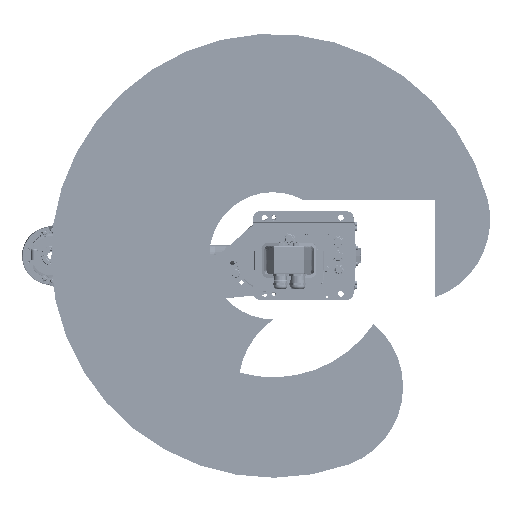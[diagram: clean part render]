
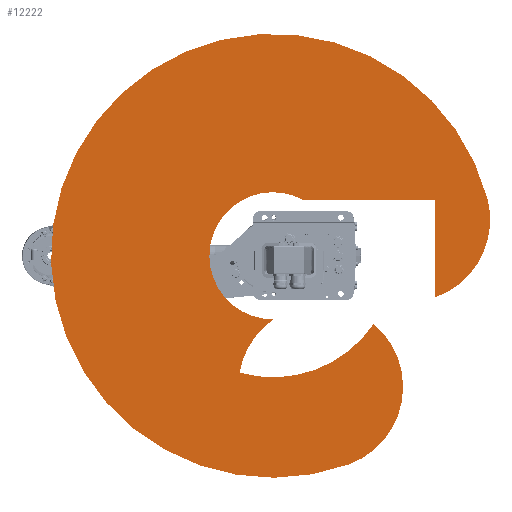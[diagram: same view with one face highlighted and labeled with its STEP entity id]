
A CAD part, front view. The second image highlights one B-rep face of the part: STEP entity #12222.
In plain terms, the highlighted planar face has unit normal (0, -1, 0).
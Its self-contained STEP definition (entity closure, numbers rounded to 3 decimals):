
#12222 = ADVANCED_FACE( '', ( #26138 ), #26139, .F. );
#26138 = FACE_OUTER_BOUND( '', #41937, .T. );
#26139 = PLANE( '', #41938 );
#41937 = EDGE_LOOP( '', ( #75548, #75549, #75550, #75551, #75552, #75553, #75554, #75555 ) );
#41938 = AXIS2_PLACEMENT_3D( '', #75556, #75557, #75558 );
#75548 = ORIENTED_EDGE( '', *, *, #86422, .T. );
#75549 = ORIENTED_EDGE( '', *, *, #82529, .F. );
#75550 = ORIENTED_EDGE( '', *, *, #79290, .F. );
#75551 = ORIENTED_EDGE( '', *, *, #90923, .F. );
#75552 = ORIENTED_EDGE( '', *, *, #87882, .T. );
#75553 = ORIENTED_EDGE( '', *, *, #78660, .T. );
#75554 = ORIENTED_EDGE( '', *, *, #79673, .T. );
#75555 = ORIENTED_EDGE( '', *, *, #88781, .T. );
#75556 = CARTESIAN_POINT( '', ( 103.366, 0., 37.622 ) );
#75557 = DIRECTION( '', ( 0., 1., 0. ) );
#75558 = DIRECTION( '', ( 0., 0., 1. ) );
#78660 = EDGE_CURVE( '', #92406, #92407, #92408, .T. );
#79290 = EDGE_CURVE( '', #93533, #93534, #93535, .T. );
#79673 = EDGE_CURVE( '', #92407, #94205, #94206, .T. );
#82529 = EDGE_CURVE( '', #93534, #99085, #99088, .T. );
#86422 = EDGE_CURVE( '', #105158, #99085, #105159, .T. );
#87882 = EDGE_CURVE( '', #107169, #92406, #107170, .T. );
#88781 = EDGE_CURVE( '', #94205, #105158, #108375, .T. );
#90923 = EDGE_CURVE( '', #107169, #93533, #110979, .T. );
#92406 = VERTEX_POINT( '', #112807 );
#92407 = VERTEX_POINT( '', #112808 );
#92408 = CIRCLE( '', #112809, 130. );
#93533 = VERTEX_POINT( '', #114701 );
#93534 = VERTEX_POINT( '', #114702 );
#93535 = CIRCLE( '', #114703, 350. );
#94205 = VERTEX_POINT( '', #115804 );
#94206 = CIRCLE( '', #115805, 100.24 );
#99085 = VERTEX_POINT( '', #123897 );
#99088 = CIRCLE( '', #123901, 130. );
#105158 = VERTEX_POINT( '', #134227 );
#105159 = LINE( '', #134228, #134229 );
#107169 = VERTEX_POINT( '', #137820 );
#107170 = CIRCLE( '', #137821, 191.57 );
#108375 = LINE( '', #139679, #139680 );
#110979 = CIRCLE( '', #143672, 130. );
#112807 = CARTESIAN_POINT( '', ( 184.156, 0., -52.78 ) );
#112808 = CARTESIAN_POINT( '', ( 100.238, 0., 0.687 ) );
#112809 = AXIS2_PLACEMENT_3D( '', #145488, #145489, #145490 );
#114701 = CARTESIAN_POINT( '', ( 328.892, 0., 119.707 ) );
#114702 = CARTESIAN_POINT( '', ( -90.587, 0., 338.074 ) );
#114703 = AXIS2_PLACEMENT_3D( '', #146283, #146284, #146285 );
#115804 = CARTESIAN_POINT( '', ( -88., 0., 48.001 ) );
#115805 = AXIS2_PLACEMENT_3D( '', #146699, #146700, #146701 );
#123897 = CARTESIAN_POINT( '', ( 65.918, 0., 255. ) );
#123901 = AXIS2_PLACEMENT_3D( '', #149849, #149850, #149851 );
#134227 = CARTESIAN_POINT( '', ( -88., 0., 255. ) );
#134228 = CARTESIAN_POINT( '', ( -88., 0., 255. ) );
#134229 = VECTOR( '', #154270, 1000. );
#137820 = CARTESIAN_POINT( '', ( 107.145, 0., 158.805 ) );
#137821 = AXIS2_PLACEMENT_3D( '', #155747, #155748, #155749 );
#139679 = CARTESIAN_POINT( '', ( -88., 0., 48.001 ) );
#139680 = VECTOR( '', #156620, 1000. );
#143672 = AXIS2_PLACEMENT_3D( '', #158328, #158329, #158330 );
#145488 = CARTESIAN_POINT( '', ( 206.732, 0., 75.244 ) );
#145489 = DIRECTION( '', ( 0., 1., 0. ) );
#145490 = DIRECTION( '', ( 1., 0., 0. ) );
#146283 = CARTESIAN_POINT( '', ( 0., 0., 0. ) );
#146284 = DIRECTION( '', ( 0., 1., 0. ) );
#146285 = DIRECTION( '', ( 1., 0., 0. ) );
#146699 = CARTESIAN_POINT( '', ( 0., 0., 0. ) );
#146700 = DIRECTION( '', ( 0., 1., 0. ) );
#146701 = DIRECTION( '', ( 1., 0., 0. ) );
#149849 = CARTESIAN_POINT( '', ( -56.94, 0., 212.504 ) );
#149850 = DIRECTION( '', ( 0., 1., 0. ) );
#149851 = DIRECTION( '', ( 1., 0., 0. ) );
#154270 = DIRECTION( '', ( 1., 0., 0. ) );
#155747 = CARTESIAN_POINT( '', ( 0., 0., 0. ) );
#155748 = DIRECTION( '', ( 0., 1., 0. ) );
#155749 = DIRECTION( '', ( 1., 0., 0. ) );
#156620 = DIRECTION( '', ( 0., 0., 1. ) );
#158328 = CARTESIAN_POINT( '', ( 206.732, 0., 75.244 ) );
#158329 = DIRECTION( '', ( 0., 1., 0. ) );
#158330 = DIRECTION( '', ( 1., 0., 0. ) );
